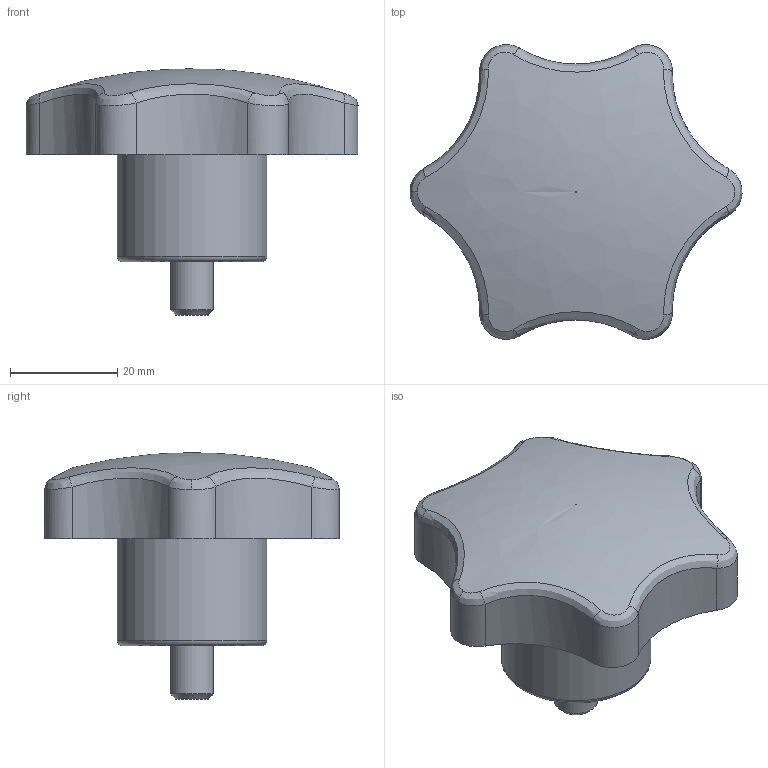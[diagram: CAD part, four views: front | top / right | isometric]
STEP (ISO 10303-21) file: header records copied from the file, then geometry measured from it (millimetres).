
FILE_DESCRIPTION( ('This file contains a STEP AP42 implementation' ,'as created by ZW3D STEP Interface translator.') ,'2;1' );
FILE_NAME( 'Rekojesc gwiazdowa z trzpieniem gwintowanym 60.stp' ,'26 331. 8 215', (''), ('ZWCAD Software Co.'), 'Version 1.0', 'ZW3D to STEP translator', '' );
FILE_SCHEMA(('AP242_MANAGED_MODEL_BASED_3D_ENGINEERING_MIM_LF { 1 0 10303 442 1 1 4 }'));
Length unit declared in the file: millimetre
Products named in the file (1): 0
Bounding box: 61.99 x 55.03 x 46 mm (x, y, z)
Volume: 44253.7 mm3; surface area: 10164.7 mm2
Topology: 2 solids, 2 shells, 51 faces, 114 edges, 71 vertices
Faces by surface type: plane 20, cylinder 15, bspline 14, torus 1, cone 1
Full cylindrical faces by diameter (mm): 8 x2, 28 x1
Entity records: 2662 total; most frequent: CARTESIAN_POINT 1586, ORIENTED_EDGE 228, DIRECTION 174, EDGE_CURVE 114, VERTEX_POINT 71, AXIS2_PLACEMENT_3D 61, EDGE_LOOP 55, VECTOR 52
